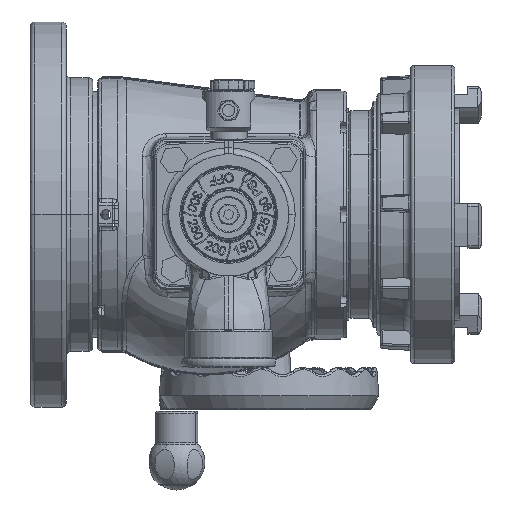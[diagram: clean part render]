
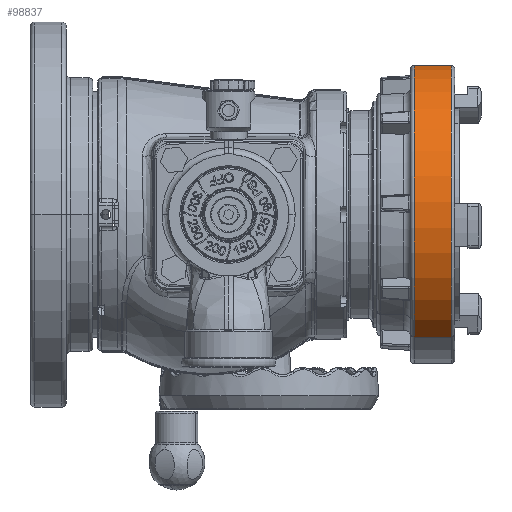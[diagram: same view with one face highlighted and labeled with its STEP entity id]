
A CAD part, front view. The second image highlights one B-rep face of the part: STEP entity #98837.
In plain terms, the highlighted cylindrical face has radius 107.442 mm (diameter 214.884 mm), a partial arc.
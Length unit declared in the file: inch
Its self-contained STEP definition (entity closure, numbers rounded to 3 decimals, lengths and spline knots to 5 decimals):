
#17774 = AXIS2_PLACEMENT_3D ( 'NONE', #30340, #30343, #30348 ) ;
#20755 = ORIENTED_EDGE ( 'NONE', *, *, #61225, .F. ) ;
#20759 = ORIENTED_EDGE ( 'NONE', *, *, #147553, .T. ) ;
#20763 = ORIENTED_EDGE ( 'NONE', *, *, #61233, .T. ) ;
#20768 = ORIENTED_EDGE ( 'NONE', *, *, #61283, .T. ) ;
#24946 = CARTESIAN_POINT ( 'NONE',  ( 3.16844, -2.86616, -3.46659 ) ) ;
#24959 = DIRECTION ( 'NONE',  ( -1., 0., 0. ) ) ;
#25012 = CARTESIAN_POINT ( 'NONE',  ( 3.16844, 1.98178, 3.46659 ) ) ;
#25024 = DIRECTION ( 'NONE',  ( -1., 0., 0. ) ) ;
#25256 = LINE ( 'NONE', #24946, #25262 ) ;
#25259 = LINE ( 'NONE', #25012, #25277 ) ;
#25262 = VECTOR ( 'NONE', #24959, 39.37008 ) ;
#25277 = VECTOR ( 'NONE', #25024, 39.37008 ) ;
#25421 = CIRCLE ( 'NONE', #17774, 4.23 ) ;
#30340 = CARTESIAN_POINT ( 'NONE',  ( 4.84064, -0.44219, 0. ) ) ;
#30343 = DIRECTION ( 'NONE',  ( 1., 0., 0. ) ) ;
#30348 = DIRECTION ( 'NONE',  ( 0., -0.573, -0.82 ) ) ;
#51305 = AXIS2_PLACEMENT_3D ( 'NONE', #101903, #101896, #101882 ) ;
#61225 = EDGE_CURVE ( 'NONE', #117474, #117490, #25256, .T. ) ;
#61233 = EDGE_CURVE ( 'NONE', #117471, #117500, #25259, .T. ) ;
#61283 = EDGE_CURVE ( 'NONE', #117500, #117490, #25421, .T. ) ;
#81473 = CARTESIAN_POINT ( 'NONE',  ( 5.89064, 1.98178, 3.46659 ) ) ;
#81483 = CARTESIAN_POINT ( 'NONE',  ( 5.89064, -2.86616, -3.46659 ) ) ;
#81527 = CARTESIAN_POINT ( 'NONE',  ( 4.84064, -2.86616, -3.46659 ) ) ;
#81553 = CARTESIAN_POINT ( 'NONE',  ( 4.84064, 1.98178, 3.46659 ) ) ;
#88792 = FACE_OUTER_BOUND ( 'NONE', #150185, .T. ) ;
#88798 = CYLINDRICAL_SURFACE ( 'NONE', #51305, 4.23 ) ;
#98837 = ADVANCED_FACE ( 'NONE', ( #88792 ), #88798, .T. ) ;
#101882 = DIRECTION ( 'NONE',  ( 0., 0.573, 0.82 ) ) ;
#101896 = DIRECTION ( 'NONE',  ( -1., 0., 0. ) ) ;
#101903 = CARTESIAN_POINT ( 'NONE',  ( 3.16844, -0.44219, 0. ) ) ;
#117471 = VERTEX_POINT ( 'NONE', #81473 ) ;
#117474 = VERTEX_POINT ( 'NONE', #81483 ) ;
#117490 = VERTEX_POINT ( 'NONE', #81527 ) ;
#117500 = VERTEX_POINT ( 'NONE', #81553 ) ;
#126676 = CIRCLE ( 'NONE', #164303, 4.23 ) ;
#140782 = CARTESIAN_POINT ( 'NONE',  ( 5.89064, -0.44219, 0. ) ) ;
#140783 = DIRECTION ( 'NONE',  ( -1., 0., 0. ) ) ;
#140784 = DIRECTION ( 'NONE',  ( 0., 0.573, 0.82 ) ) ;
#147553 = EDGE_CURVE ( 'NONE', #117474, #117471, #126676, .T. ) ;
#150185 = EDGE_LOOP ( 'NONE', ( #20755, #20759, #20763, #20768 ) ) ;
#164303 = AXIS2_PLACEMENT_3D ( 'NONE', #140782, #140783, #140784 ) ;
